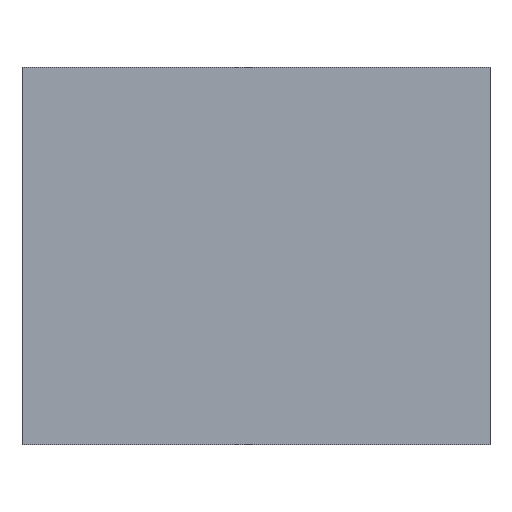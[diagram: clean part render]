
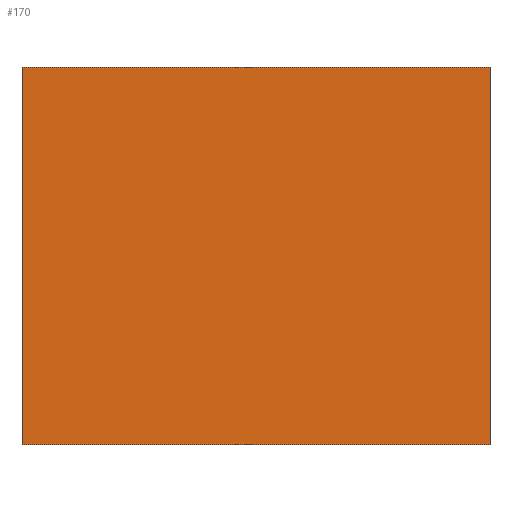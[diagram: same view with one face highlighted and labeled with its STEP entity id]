
A CAD part, top view. The second image highlights one B-rep face of the part: STEP entity #170.
In plain terms, the highlighted planar face has unit normal (0, 0, 1).
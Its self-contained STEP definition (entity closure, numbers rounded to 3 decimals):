
#3 = LINE ( 'NONE', #198, #107 ) ;
#5 = VECTOR ( 'NONE', #146, 1000. ) ;
#9 = CARTESIAN_POINT ( 'NONE',  ( 0., 0., 10. ) ) ;
#12 = FACE_OUTER_BOUND ( 'NONE', #32, .T. ) ;
#20 = VERTEX_POINT ( 'NONE', #158 ) ;
#24 = PLANE ( 'NONE',  #99 ) ;
#27 = CARTESIAN_POINT ( 'NONE',  ( 62., 50., 10. ) ) ;
#32 = EDGE_LOOP ( 'NONE', ( #153, #53, #79, #57 ) ) ;
#39 = CARTESIAN_POINT ( 'NONE',  ( 0., 0., 10. ) ) ;
#52 = EDGE_CURVE ( 'NONE', #20, #167, #200, .T. ) ;
#53 = ORIENTED_EDGE ( 'NONE', *, *, #71, .T. ) ;
#57 = ORIENTED_EDGE ( 'NONE', *, *, #102, .T. ) ;
#60 = VECTOR ( 'NONE', #129, 1000. ) ;
#64 = CARTESIAN_POINT ( 'NONE',  ( 62., 0., 10. ) ) ;
#65 = DIRECTION ( 'NONE',  ( 0., 1., 0. ) ) ;
#68 = DIRECTION ( 'NONE',  ( -1., 0., 0. ) ) ;
#71 = EDGE_CURVE ( 'NONE', #167, #109, #141, .T. ) ;
#79 = ORIENTED_EDGE ( 'NONE', *, *, #89, .T. ) ;
#89 = EDGE_CURVE ( 'NONE', #109, #147, #189, .T. ) ;
#99 = AXIS2_PLACEMENT_3D ( 'NONE', #120, #163, #114 ) ;
#102 = EDGE_CURVE ( 'NONE', #147, #20, #3, .T. ) ;
#107 = VECTOR ( 'NONE', #68, 1000. ) ;
#109 = VERTEX_POINT ( 'NONE', #64 ) ;
#114 = DIRECTION ( 'NONE',  ( -1., 0., 0. ) ) ;
#117 = CARTESIAN_POINT ( 'NONE',  ( 0., 0., 10. ) ) ;
#120 = CARTESIAN_POINT ( 'NONE',  ( 0., 0., 10. ) ) ;
#129 = DIRECTION ( 'NONE',  ( 1., 0., 0. ) ) ;
#141 = LINE ( 'NONE', #9, #60 ) ;
#146 = DIRECTION ( 'NONE',  ( 0., -1., 0. ) ) ;
#147 = VERTEX_POINT ( 'NONE', #27 ) ;
#148 = CARTESIAN_POINT ( 'NONE',  ( 62., 0., 10. ) ) ;
#153 = ORIENTED_EDGE ( 'NONE', *, *, #52, .T. ) ;
#158 = CARTESIAN_POINT ( 'NONE',  ( 0., 50., 10. ) ) ;
#163 = DIRECTION ( 'NONE',  ( 0., 0., -1. ) ) ;
#167 = VERTEX_POINT ( 'NONE', #117 ) ;
#170 = ADVANCED_FACE ( 'NONE', ( #12 ), #24, .F. ) ;
#175 = VECTOR ( 'NONE', #65, 1000. ) ;
#189 = LINE ( 'NONE', #148, #175 ) ;
#198 = CARTESIAN_POINT ( 'NONE',  ( 0., 50., 10. ) ) ;
#200 = LINE ( 'NONE', #39, #5 ) ;
